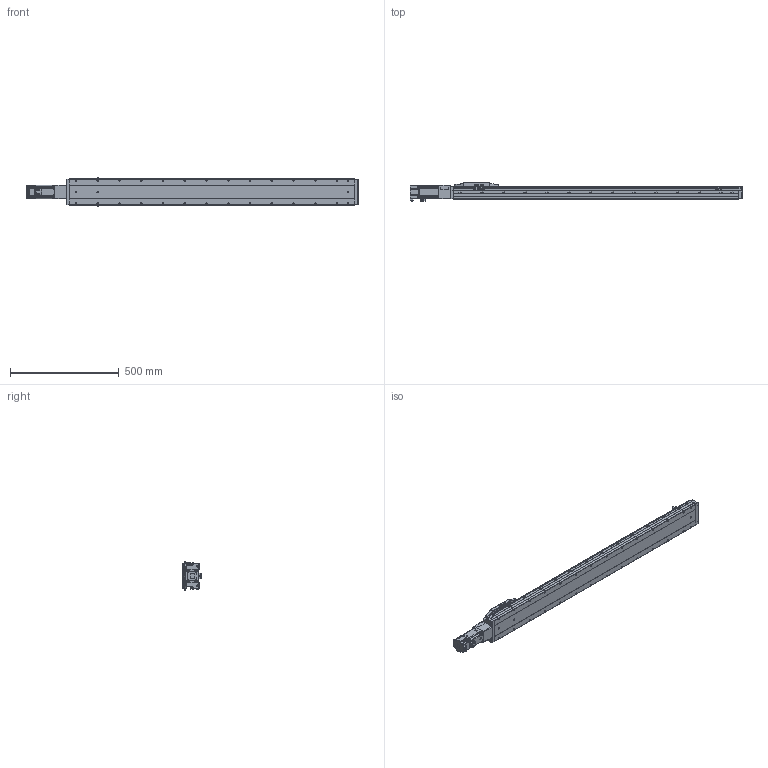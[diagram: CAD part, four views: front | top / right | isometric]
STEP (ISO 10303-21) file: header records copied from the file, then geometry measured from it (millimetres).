
FILE_DESCRIPTION (( 'STEP AP214' ), '1' );
FILE_NAME ('CTH12-L10-S1100-BC-C40（简）.STEP', '2023-02-06T05:19:44', ( '' ), ( '' ), 'SwSTEP 2.0', 'SolidWorks 2018', '' );
FILE_SCHEMA (( 'AUTOMOTIVE_DESIGN' ));
Length unit declared in the file: millimetre
Products named in the file (23): PM-Y45; 内六角圆柱头螺钉M3-2; CTH12賑怢郪磁; CTH12-BC-03_1; CTH12賑怢ㄗ潠ㄘ; 湮賑怢  裔赽-1(CTH12)賑怢; CTH12_body_3; hex nuts, style 1-grades ab gb_GB_FASTENER_NUT_SNAB1 M3-N; CTH12-L10-S1100-BC-C40（简）; 蚐郲; CTH12-BL_body_4; 内六角圆柱头螺钉M3; 400W萇儂; CTH12; CTH12-BC-06-T40（cth8-bc-06-t40-G）_1; M5蹟隊; CTH嫖萇羲壽假蚾啣; 内六角圆柱头螺钉M3-1; 嫖萇羲壽郪磁1333; CTH12底座-L1311简（1100行程）; 嫖萇羲壽郪磁2; CTH12萇儂釱; CTH12覜茼え
Assembly tree (43 placements, depth 4):
  CTH12-L10-S1100-BC-C40（简）
    CTH12底座-L1311简（1100行程）
    蚐郲  x2
    CTH12-BL_body_4
    CTH12_body_3
    CTH12賑怢郪磁
      CTH12
        湮賑怢  裔赽-1(CTH12)賑怢
        CTH12賑怢ㄗ潠ㄘ
    CTH12覜茼え
    嫖萇羲壽郪磁2
      CTH嫖萇羲壽假蚾啣
      PM-Y45
      内六角圆柱头螺钉M3-1  x2
      内六角圆柱头螺钉M3-2  x2
      hex nuts, style 1-grades ab gb_GB_FASTENER_NUT_SNAB1 M3-N  x2
    CTH12萇儂釱
      CTH12-BC-03_1
      CTH12-BC-06-T40（cth8-bc-06-t40-G）_1
    嫖萇羲壽郪磁1333  x2
      CTH嫖萇羲壽假蚾啣
      PM-Y45
      内六角圆柱头螺钉M3-2
      内六角圆柱头螺钉M3-1
      hex nuts, style 1-grades ab gb_GB_FASTENER_NUT_SNAB1 M3-N
    内六角圆柱头螺钉M3  x6
    400W萇儂
    M5蹟隊  x4
Bounding box: 1525.8 x 86.5 x 131.52 mm (x, y, z)
Volume: 8967417.8 mm3; surface area: 788651.2 mm2
Topology: 45 solids, 47 shells, 3110 faces, 7734 edges, 4849 vertices
Faces by surface type: plane 1520, cylinder 923, cone 395, bspline 144, torus 124, sphere 4
Entity records: 97504 total; most frequent: CARTESIAN_POINT 33182, ORIENTED_EDGE 12570, DIRECTION 12280, EDGE_CURVE 6285, AXIS2_PLACEMENT_3D 4317, VERTEX_POINT 3953, LINE 3646, VECTOR 3646
